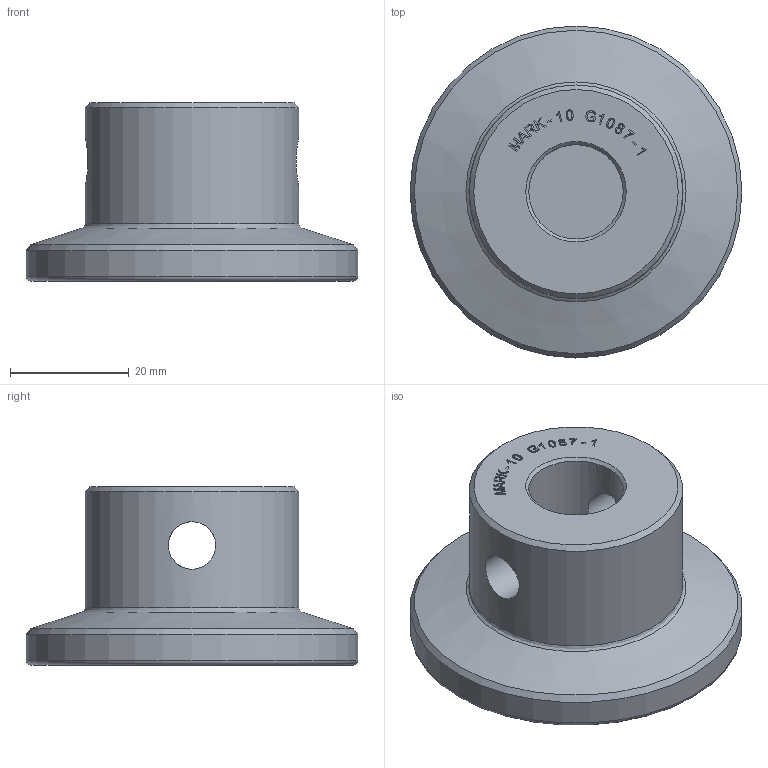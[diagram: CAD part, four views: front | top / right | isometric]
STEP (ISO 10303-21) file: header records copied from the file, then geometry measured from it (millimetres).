
FILE_DESCRIPTION((''),'2;1');
FILE_NAME('F:\CAD files\Itr\3D MARKETING MODELS\GRIPS\G1087-1\G1087-1.stp','2017-04-20T12:16:43',('mlampen'),(''),'Autodesk Inventor 2010','Autodesk Inventor 2010','');
FILE_SCHEMA(('AUTOMOTIVE_DESIGN { 1 0 10303 214 1 1 1 1 }'));
Length unit declared in the file: inch
Products named in the file (1): Part2
Bounding box: 55.88 x 55.88 x 29.97 mm (x, y, z)
Volume: 35418.3 mm3; surface area: 9731.8 mm2
Topology: 1 solids, 1 shells, 689 faces, 1984 edges, 1320 vertices
Faces by surface type: plane 674, cylinder 9, cone 4, torus 1, bspline 1
Full cylindrical faces by diameter (mm): 8.001 x2, 15.9 x1, 18.923 x1, 19.939 x1, 35.941 x1, 38.862 x1, 39.878 x1, 55.88 x1
Entity records: 22204 total; most frequent: CARTESIAN_POINT 4149, ORIENTED_EDGE 3930, DIRECTION 3357, EDGE_CURVE 1965, VECTOR 1941, LINE 1941, VERTEX_POINT 1316, EDGE_LOOP 732
